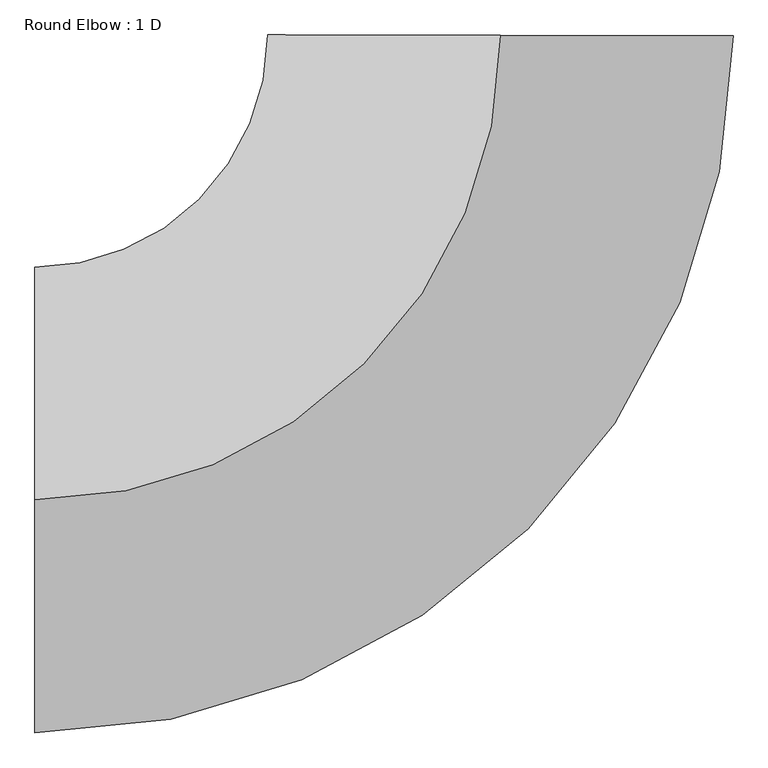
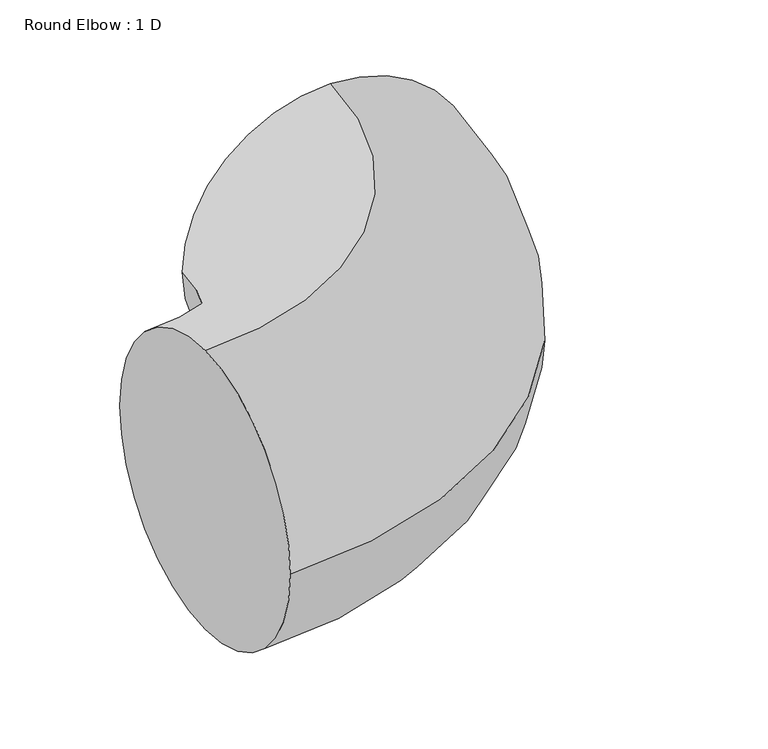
"""IFC4 building model written with IfcOpenShell, lengths in millimetres: duct fitting geometry, Round Elbow : 1 D."""

from ifc_helpers import new_model, si_unit, point, frame, origin, place, context, project, spatial, circle_curve, ellipse_curve, trimmed, source, transform, mapped, element, save
from ifc_brep_helpers import plane_surface, revolved_surface, advanced_brep


def round_elbow_1_d_d483edfb(model_context):
    return source(origin(), model_context, "Body", "AdvancedBrep", [
        advanced_brep(
        [(-760.3140806, 0.0, 381.0), (-760.3140806, 381.0, 0.0), (-760.3140806, 0.0, -381.0), (-760.3140806, -381.0, 0.0), (1.6840502, 760.3122156, 381.0), (382.6831156, 759.4683233, 0.0), (1.6840502, 760.3122156, -381.0), (-379.3150152, 761.1561078, 0.0)],
        [
            (0, 1, circle_curve(frame((-760.3140806, 0.0, 0.0), z_axis=(-1.0, 0.0, 0.0), x_axis=(0.0, 1.0, 0.0)), 381.0)),
            (1, 2, circle_curve(frame((-760.3140806, 0.0, 0.0), z_axis=(-1.0, 0.0, 0.0), x_axis=(0.0, 1.0, 0.0)), 381.0)),
            (2, 3, circle_curve(frame((-760.3140806, 0.0, 0.0), z_axis=(-1.0, 0.0, 0.0), x_axis=(0.0, 1.0, 0.0)), 381.0)),
            (3, 0, circle_curve(frame((-760.3140806, 0.0, 0.0), z_axis=(-1.0, 0.0, 0.0), x_axis=(0.0, 1.0, 0.0)), 381.0)),
            (4, 5, circle_curve(frame((1.6840502, 760.3122156, 0.0), z_axis=(0.0022149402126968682, 0.9999975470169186, 0.0), x_axis=(-0.9999975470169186, 0.0022149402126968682, 0.0)), 381.0)),
            (5, 6, circle_curve(frame((1.6840502, 760.3122156, 0.0), z_axis=(0.0022149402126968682, 0.9999975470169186, 0.0), x_axis=(-0.9999975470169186, 0.0022149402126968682, 0.0)), 381.0)),
            (6, 7, circle_curve(frame((1.6840502, 760.3122156, 0.0), z_axis=(0.0022149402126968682, 0.9999975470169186, 0.0), x_axis=(-0.9999975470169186, 0.0022149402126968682, 0.0)), 381.0)),
            (7, 4, circle_curve(frame((1.6840502, 760.3122156, 0.0), z_axis=(0.0022149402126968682, 0.9999975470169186, 0.0), x_axis=(-0.9999975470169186, 0.0022149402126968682, 0.0)), 381.0)),
            (7, 1, circle_curve(frame((-760.3140806, 762.0, 0.0), z_axis=(0.0, 0.0, -1.0), x_axis=(0.0, -1.0, 0.0)), 381.0)),
            (0, 4, circle_curve(frame((-760.3140806, 762.0, 381.0), z_axis=(0.0, 0.0, 1.0), x_axis=(0.0, -1.0, 0.0)), 762.0)),
            (6, 2, circle_curve(frame((-760.3140806, 762.0, -381.0), z_axis=(0.0, 0.0, -1.0), x_axis=(0.0, -1.0, 0.0)), 762.0)),
            (5, 3, circle_curve(frame((-760.3140806, 762.0, 0.0), z_axis=(0.0, 0.0, -1.0), x_axis=(0.0, -1.0, 0.0)), 1143.0)),
        ],
        [
            plane_surface(frame((-760.3140806, 0.0, 0.0), z_axis=(-1.0, 0.0, 0.0), x_axis=(0.0, 0.0, 1.0))),
            plane_surface(frame((1.6840502, 760.3122156, 0.0), z_axis=(0.00221494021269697, 0.9999975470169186, 0.0), x_axis=(0.0, 0.0, 1.0))),
            revolved_surface(trimmed(ellipse_curve(frame((-760.3140806, 0.0, 0.0), z_axis=(-1.0, 0.0, 0.0), x_axis=(0.0, 1.0, 0.0)), 381.0, 381.0), [point((-760.3140806, 0.0, 381.0))], [point((-760.3140806, 381.0, 0.0))], True, "CARTESIAN"), (-760.3140806, 762.0, 0.0), (0.0, 0.0, 1.0)),
            revolved_surface(trimmed(ellipse_curve(frame((-760.3140806, 0.0, 0.0), z_axis=(-1.0, 0.0, 0.0), x_axis=(0.0, 1.0, 0.0)), 381.0, 381.0), [point((-760.3140806, 381.0, 0.0))], [point((-760.3140806, 0.0, -381.0))], True, "CARTESIAN"), (-760.3140806, 762.0, 0.0), (0.0, 0.0, 1.0)),
            revolved_surface(trimmed(ellipse_curve(frame((-760.3140806, 0.0, 0.0), z_axis=(-1.0, 0.0, 0.0), x_axis=(0.0, 1.0, 0.0)), 381.0, 381.0), [point((-760.3140806, 0.0, -381.0))], [point((-760.3140806, -381.0, 0.0))], True, "CARTESIAN"), (-760.3140806, 762.0, 0.0), (0.0, 0.0, 1.0)),
            revolved_surface(trimmed(ellipse_curve(frame((-760.3140806, 0.0, 0.0), z_axis=(-1.0, 0.0, 0.0), x_axis=(0.0, 1.0, 0.0)), 381.0, 381.0), [point((-760.3140806, -381.0, 0.0))], [point((-760.3140806, 0.0, 381.0))], True, "CARTESIAN"), (-760.3140806, 762.0, 0.0), (0.0, 0.0, 1.0)),
        ],
        [
            (0, [[1, 2, 3, 4]]),
            (1, [[5, 6, 7, 8]]),
            (2, [[9, -1, 10, -8]]),
            (3, [[11, -2, -9, -7]]),
            (4, [[12, -3, -11, -6]]),
            (5, [[-10, -4, -12, -5]]),
        ],
    ),
    ])


if __name__ == "__main__":
    model = new_model("IFC4")
    model_context = context("Model", 3, world=origin())
    ifc_project = project(units=[si_unit("LENGTHUNIT", "METRE", prefix="MILLI")], contexts=[model_context])
    site = spatial("IfcSite", under=ifc_project)
    building = spatial("IfcBuilding", under=site)
    placement = place(None, origin())
    round_elbow_1_d_shape = round_elbow_1_d_d483edfb(model_context)
    element("IfcDuctFitting", 1, ObjectType="Round Elbow : 1 D", at=placement, inside=building, context=model_context, shape_type="MappedRepresentation", body=[
        mapped(round_elbow_1_d_shape, transform((0.0, 0.0, 0.0), x_axis=(1.0, 0.0, 0.0), y_axis=(0.0, 1.0, 0.0), z_axis=(0.0, 0.0, 1.0))),
    ])
    save(model, "model.ifc")
